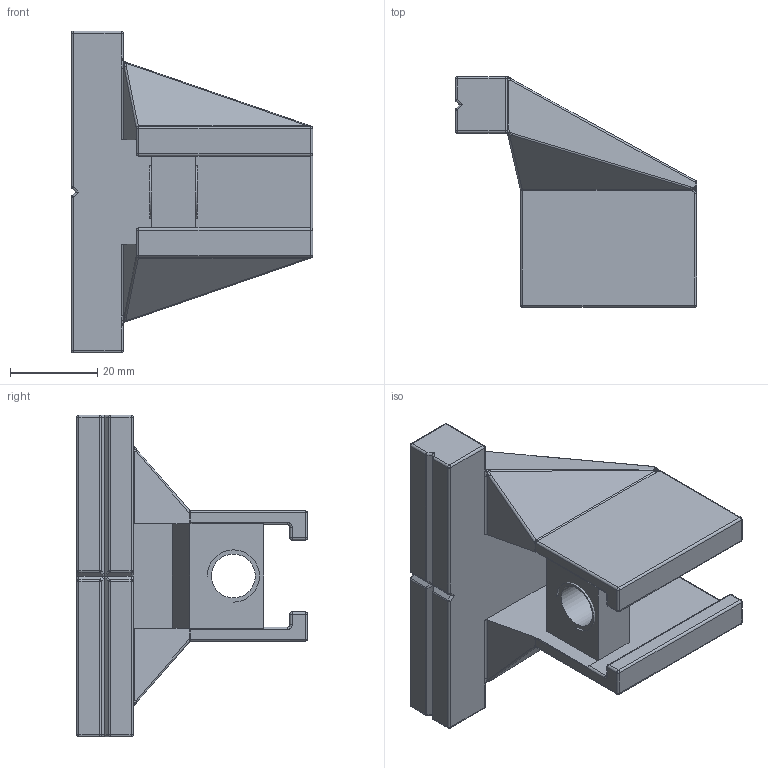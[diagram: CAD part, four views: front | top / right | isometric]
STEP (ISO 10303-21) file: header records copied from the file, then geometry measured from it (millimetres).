
FILE_DESCRIPTION(/* description */ (''),/* implementation_level */ '2;1');
FILE_NAME(/* name */ 'H:\5-Olympiades\47e\Sujet Régional\Etau\A donner aux candidats\2-Après-Midi\02-Mors mobile.stp',/* time_stamp */ '2022-03-30T09:17:47+02:00',/* author */ ('Philippe'),/* organization */ (''),/* preprocessor_version */ 'ST-DEVELOPER v18',/* originating_system */ 'Autodesk Inventor 2020',/* authorisation */ '');
FILE_SCHEMA (('CONFIG_CONTROL_DESIGN','AP203_CONFIGURATION_CONTROLLED_3D_DESIGN_OF_MECHANICAL_PARTS_AND_ASSEMBLIES_MIM_LF { 1 0 10303 203 3 1 4 }'));
Length unit declared in the file: millimetre
Products named in the file (1): 02-Mors mobile
Bounding box: 55.5 x 53 x 74 mm (x, y, z)
Volume: 43642.8 mm3; surface area: 16077.3 mm2
Topology: 1 solids, 2 shells, 242 faces, 555 edges, 316 vertices
Faces by surface type: cylinder 89, bspline 64, plane 49, sphere 34, torus 6
Full cylindrical faces by diameter (mm): 10.106 x1
Entity records: 12309 total; most frequent: CARTESIAN_POINT 6840, ORIENTED_EDGE 1106, DIRECTION 1040, EDGE_CURVE 555, AXIS2_PLACEMENT_3D 414, VERTEX_POINT 316, EDGE_LOOP 244, FACE_OUTER_BOUND 242
